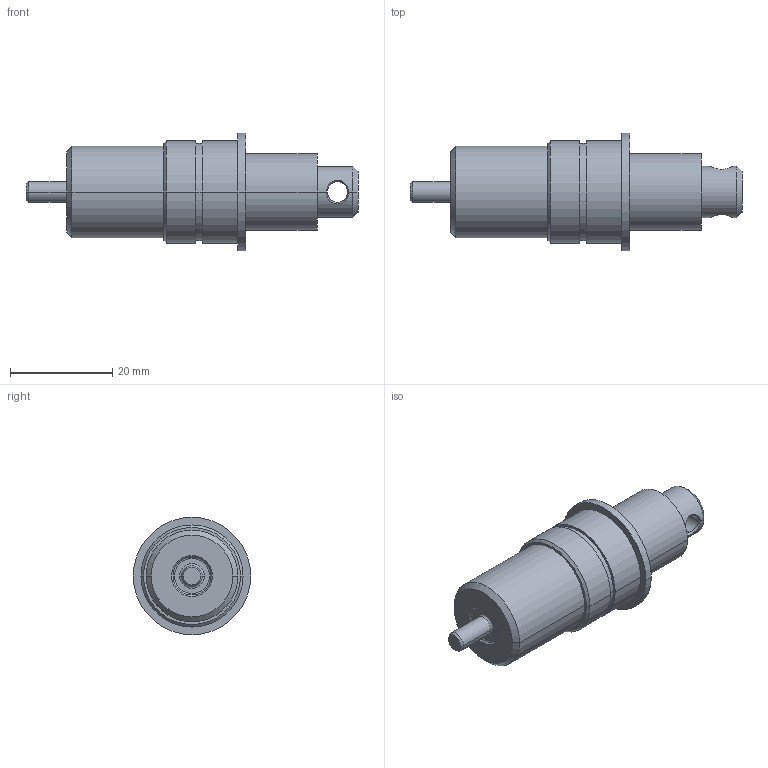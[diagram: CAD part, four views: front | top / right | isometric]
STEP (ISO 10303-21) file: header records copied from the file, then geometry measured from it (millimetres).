
FILE_DESCRIPTION (( 'STEP AP214' ), '1' );
FILE_NAME ('TPP_LS-01-01-003.STEP', '2021-10-26T12:01:58', ( '' ), ( '' ), 'SwSTEP 2.0', 'SolidWorks 2021', '' );
FILE_SCHEMA (( 'AUTOMOTIVE_DESIGN' ));
Length unit declared in the file: millimetre
Products named in the file (1): TPP_LS-01-01-003
Bounding box: 65 x 23 x 23 mm (x, y, z)
Volume: 12985.6 mm3; surface area: 4015.9 mm2
Topology: 1 solids, 1 shells, 46 faces, 100 edges, 62 vertices
Faces by surface type: cylinder 18, cone 10, plane 10, bspline 4, torus 4
Entity records: 4067 total; most frequent: CARTESIAN_POINT 3022, DIRECTION 220, ORIENTED_EDGE 200, EDGE_CURVE 100, AXIS2_PLACEMENT_3D 95, VERTEX_POINT 62, EDGE_LOOP 54, CIRCLE 52
